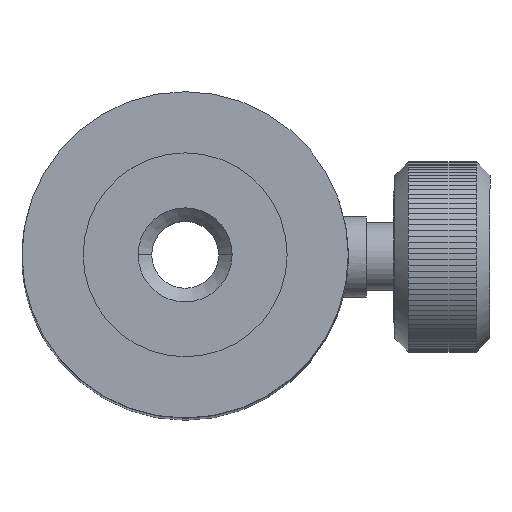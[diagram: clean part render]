
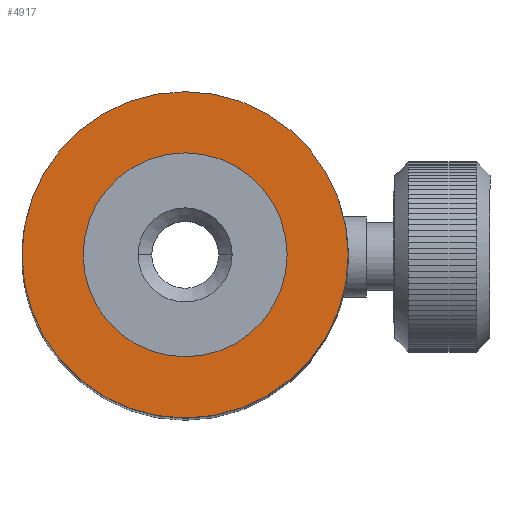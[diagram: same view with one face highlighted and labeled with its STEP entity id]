
A CAD part, top view. The second image highlights one B-rep face of the part: STEP entity #4917.
In plain terms, the highlighted planar face has unit normal (0, 0, 1).
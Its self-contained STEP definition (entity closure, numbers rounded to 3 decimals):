
#2075 = VERTEX_POINT ( 'NONE', #11083 ) ;
#2079 = EDGE_CURVE ( 'NONE', #2075, #2080, #11082, .T. ) ;
#2080 = VERTEX_POINT ( 'NONE', #11077 ) ;
#4917 = ADVANCED_FACE ( 'NONE', ( #5603, #5601 ), #5597, .F. ) ;
#4921 = EDGE_LOOP ( 'NONE', ( #4923, #4925 ) ) ;
#4923 = ORIENTED_EDGE ( 'NONE', *, *, #5170, .F. ) ;
#4925 = ORIENTED_EDGE ( 'NONE', *, *, #4926, .F. ) ;
#4926 = EDGE_CURVE ( 'NONE', #5173, #5172, #5587, .T. ) ;
#4927 = EDGE_LOOP ( 'NONE', ( #4928, #5030 ) ) ;
#4928 = ORIENTED_EDGE ( 'NONE', *, *, #4937, .F. ) ;
#4937 = EDGE_CURVE ( 'NONE', #2080, #2075, #5575, .T. ) ;
#5030 = ORIENTED_EDGE ( 'NONE', *, *, #2079, .F. ) ;
#5170 = EDGE_CURVE ( 'NONE', #5172, #5173, #6240, .T. ) ;
#5172 = VERTEX_POINT ( 'NONE', #6215 ) ;
#5173 = VERTEX_POINT ( 'NONE', #6214 ) ;
#5572 = CARTESIAN_POINT ( 'NONE',  ( 24., 0., 100. ) ) ;
#5573 = AXIS2_PLACEMENT_3D ( 'NONE', #5572, #5687, #5685 ) ;
#5575 = CIRCLE ( 'NONE', #5573, 7.5 ) ;
#5579 = DIRECTION ( 'NONE',  ( -1., 0., 0. ) ) ;
#5582 = DIRECTION ( 'NONE',  ( 0., 0., -1. ) ) ;
#5583 = CARTESIAN_POINT ( 'NONE',  ( 24., 0., 100. ) ) ;
#5585 = AXIS2_PLACEMENT_3D ( 'NONE', #5583, #5582, #5579 ) ;
#5587 = CIRCLE ( 'NONE', #5585, 12. ) ;
#5591 = DIRECTION ( 'NONE',  ( -1., 0., 0. ) ) ;
#5594 = DIRECTION ( 'NONE',  ( 0., 0., -1. ) ) ;
#5595 = CARTESIAN_POINT ( 'NONE',  ( 24., 0., 100. ) ) ;
#5596 = AXIS2_PLACEMENT_3D ( 'NONE', #5595, #5594, #5591 ) ;
#5597 = PLANE ( 'NONE',  #5596 ) ;
#5601 = FACE_BOUND ( 'NONE', #4927, .T. ) ;
#5603 = FACE_OUTER_BOUND ( 'NONE', #4921, .T. ) ;
#5685 = DIRECTION ( 'NONE',  ( 1., 0., 0. ) ) ;
#5687 = DIRECTION ( 'NONE',  ( 0., 0., 1. ) ) ;
#6214 = CARTESIAN_POINT ( 'NONE',  ( 36., 0., 100. ) ) ;
#6215 = CARTESIAN_POINT ( 'NONE',  ( 12., 0., 100. ) ) ;
#6217 = DIRECTION ( 'NONE',  ( -1., 0., 0. ) ) ;
#6238 = DIRECTION ( 'NONE',  ( 0., 0., -1. ) ) ;
#6239 = AXIS2_PLACEMENT_3D ( 'NONE', #6264, #6238, #6217 ) ;
#6240 = CIRCLE ( 'NONE', #6239, 12. ) ;
#6264 = CARTESIAN_POINT ( 'NONE',  ( 24., 0., 100. ) ) ;
#11077 = CARTESIAN_POINT ( 'NONE',  ( 31.5, 0., 100. ) ) ;
#11078 = DIRECTION ( 'NONE',  ( 1., 0., 0. ) ) ;
#11079 = DIRECTION ( 'NONE',  ( 0., 0., 1. ) ) ;
#11080 = CARTESIAN_POINT ( 'NONE',  ( 24., 0., 100. ) ) ;
#11081 = AXIS2_PLACEMENT_3D ( 'NONE', #11080, #11079, #11078 ) ;
#11082 = CIRCLE ( 'NONE', #11081, 7.5 ) ;
#11083 = CARTESIAN_POINT ( 'NONE',  ( 16.5, 0., 100. ) ) ;
